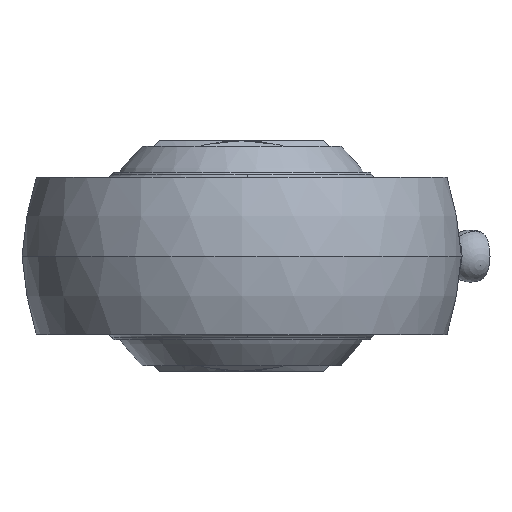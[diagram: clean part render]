
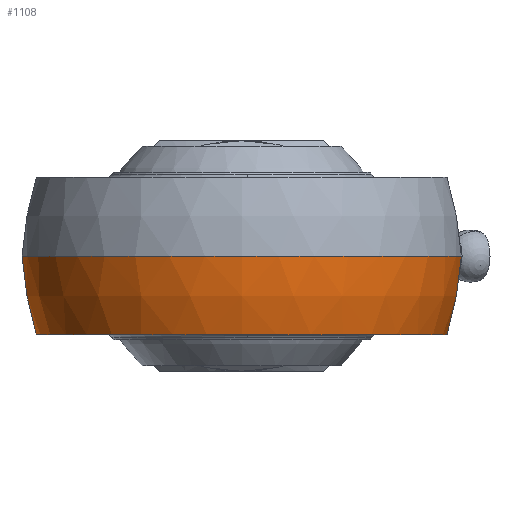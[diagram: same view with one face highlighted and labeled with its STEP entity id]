
A CAD part, left-side view. The second image highlights one B-rep face of the part: STEP entity #1108.
In plain terms, the highlighted spherical face has radius 21 mm.
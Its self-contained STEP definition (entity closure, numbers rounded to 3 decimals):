
#972 = VERTEX_POINT ( 'NONE', #3186 ) ;
#973 = ORIENTED_EDGE ( 'NONE', *, *, #974, .T. ) ;
#974 = EDGE_CURVE ( 'NONE', #972, #975, #3258, .T. ) ;
#975 = VERTEX_POINT ( 'NONE', #3223 ) ;
#976 = ORIENTED_EDGE ( 'NONE', *, *, #977, .T. ) ;
#977 = EDGE_CURVE ( 'NONE', #975, #1111, #3222, .T. ) ;
#1004 = ORIENTED_EDGE ( 'NONE', *, *, #1005, .T. ) ;
#1005 = EDGE_CURVE ( 'NONE', #1112, #1036, #3289, .T. ) ;
#1036 = VERTEX_POINT ( 'NONE', #3418 ) ;
#1037 = ORIENTED_EDGE ( 'NONE', *, *, #1038, .F. ) ;
#1038 = EDGE_CURVE ( 'NONE', #972, #1036, #3417, .T. ) ;
#1043 = EDGE_LOOP ( 'NONE', ( #1109, #1004, #1037, #973, #976 ) ) ;
#1108 = ADVANCED_FACE ( 'NONE', ( #3477 ), #3476, .T. ) ;
#1109 = ORIENTED_EDGE ( 'NONE', *, *, #1110, .T. ) ;
#1110 = EDGE_CURVE ( 'NONE', #1111, #1112, #3470, .T. ) ;
#1111 = VERTEX_POINT ( 'NONE', #3567 ) ;
#1112 = VERTEX_POINT ( 'NONE', #3566 ) ;
#3186 = CARTESIAN_POINT ( 'NONE',  ( 9.138, 18.908, 0. ) ) ;
#3222 = CIRCLE ( 'NONE', #3350, 19.615 ) ;
#3223 = CARTESIAN_POINT ( 'NONE',  ( 9.138, 17.357, -7.5 ) ) ;
#3224 = DIRECTION ( 'NONE',  ( 0., 0., 1. ) ) ;
#3225 = DIRECTION ( 'NONE',  ( -1., 0., 0. ) ) ;
#3226 = CARTESIAN_POINT ( 'NONE',  ( 9.138, 0., 0. ) ) ;
#3257 = AXIS2_PLACEMENT_3D ( 'NONE', #3226, #3225, #3224 ) ;
#3258 = CIRCLE ( 'NONE', #3257, 18.908 ) ;
#3285 = DIRECTION ( 'NONE',  ( 0., 1., 0. ) ) ;
#3286 = DIRECTION ( 'NONE',  ( 0., 0., -1. ) ) ;
#3287 = CARTESIAN_POINT ( 'NONE',  ( 0., 0., 0. ) ) ;
#3288 = AXIS2_PLACEMENT_3D ( 'NONE', #3287, #3286, #3285 ) ;
#3289 = CIRCLE ( 'NONE', #3288, 21. ) ;
#3347 = DIRECTION ( 'NONE',  ( 1., 0., 0. ) ) ;
#3348 = DIRECTION ( 'NONE',  ( 0., 0., 1. ) ) ;
#3349 = CARTESIAN_POINT ( 'NONE',  ( 0., 0., -7.5 ) ) ;
#3350 = AXIS2_PLACEMENT_3D ( 'NONE', #3349, #3348, #3347 ) ;
#3406 = DIRECTION ( 'NONE',  ( 1., 0., 0. ) ) ;
#3407 = DIRECTION ( 'NONE',  ( 0., 0., 1. ) ) ;
#3408 = CARTESIAN_POINT ( 'NONE',  ( 0., 0., 0. ) ) ;
#3409 = AXIS2_PLACEMENT_3D ( 'NONE', #3408, #3407, #3406 ) ;
#3417 = CIRCLE ( 'NONE', #3409, 21. ) ;
#3418 = CARTESIAN_POINT ( 'NONE',  ( -21., 0., 0. ) ) ;
#3470 = CIRCLE ( 'NONE', #3474, 18.908 ) ;
#3471 = DIRECTION ( 'NONE',  ( 0., 1., 0. ) ) ;
#3472 = DIRECTION ( 'NONE',  ( 0., 0., -1. ) ) ;
#3473 = AXIS2_PLACEMENT_3D ( 'NONE', #3475, #3472, #3471 ) ;
#3474 = AXIS2_PLACEMENT_3D ( 'NONE', #3570, #3569, #3568 ) ;
#3475 = CARTESIAN_POINT ( 'NONE',  ( 0., 0., 0. ) ) ;
#3476 = SPHERICAL_SURFACE ( 'NONE', #3473, 21. ) ;
#3477 = FACE_OUTER_BOUND ( 'NONE', #1043, .T. ) ;
#3566 = CARTESIAN_POINT ( 'NONE',  ( 9.138, -18.908, 0. ) ) ;
#3567 = CARTESIAN_POINT ( 'NONE',  ( 9.138, -17.357, -7.5 ) ) ;
#3568 = DIRECTION ( 'NONE',  ( 0., 0., 1. ) ) ;
#3569 = DIRECTION ( 'NONE',  ( -1., 0., 0. ) ) ;
#3570 = CARTESIAN_POINT ( 'NONE',  ( 9.138, 0., 0. ) ) ;
